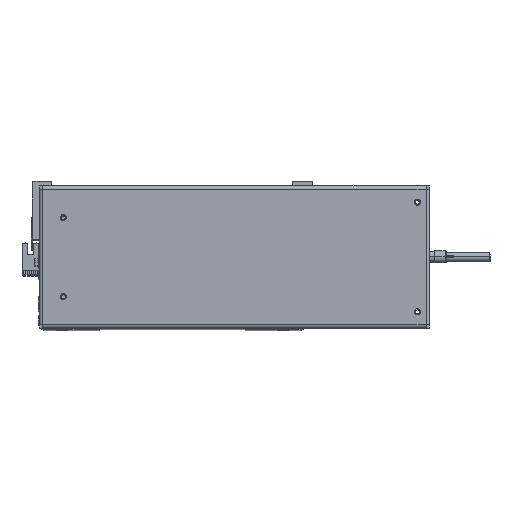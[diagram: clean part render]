
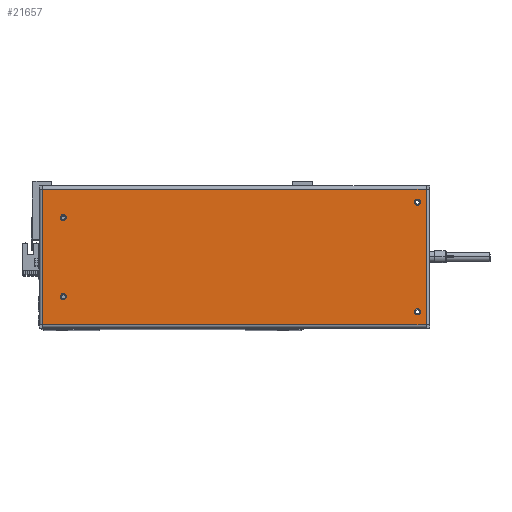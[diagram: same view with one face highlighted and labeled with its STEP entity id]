
A CAD part, top view. The second image highlights one B-rep face of the part: STEP entity #21657.
In plain terms, the highlighted planar face has unit normal (0, 0, 1).
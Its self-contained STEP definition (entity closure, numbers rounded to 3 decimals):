
#264 = LINE ( 'NONE', #8107, #10967 ) ;
#360 = DIRECTION ( 'NONE',  ( 1., 0., 0. ) ) ;
#774 = AXIS2_PLACEMENT_3D ( 'NONE', #36128, #15264, #360 ) ;
#854 = CIRCLE ( 'NONE', #12189, 2.5 ) ;
#1230 = DIRECTION ( 'NONE',  ( 1., 0., 0. ) ) ;
#2243 = CARTESIAN_POINT ( 'NONE',  ( 150.5, -45., 0. ) ) ;
#2262 = DIRECTION ( 'NONE',  ( 0., 1., 0. ) ) ;
#2602 = CARTESIAN_POINT ( 'NONE',  ( 153., -45., 0. ) ) ;
#4114 = DIRECTION ( 'NONE',  ( 1., 0., 0. ) ) ;
#4232 = CARTESIAN_POINT ( 'NONE',  ( -143., -32.5, 0. ) ) ;
#4441 = DIRECTION ( 'NONE',  ( 1., 0., 0. ) ) ;
#4993 = ORIENTED_EDGE ( 'NONE', *, *, #6854, .F. ) ;
#5530 = AXIS2_PLACEMENT_3D ( 'NONE', #18907, #7134, #4114 ) ;
#5735 = CIRCLE ( 'NONE', #38578, 2.5 ) ;
#5981 = VECTOR ( 'NONE', #10078, 1000. ) ;
#6465 = VERTEX_POINT ( 'NONE', #24953 ) ;
#6541 = ORIENTED_EDGE ( 'NONE', *, *, #24317, .F. ) ;
#6602 = CIRCLE ( 'NONE', #15587, 2.5 ) ;
#6828 = LINE ( 'NONE', #21601, #26959 ) ;
#6854 = EDGE_CURVE ( 'NONE', #22156, #10560, #13270, .T. ) ;
#6978 = EDGE_LOOP ( 'NONE', ( #18517, #12910 ) ) ;
#7134 = DIRECTION ( 'NONE',  ( 0., 0., 1. ) ) ;
#7180 = CARTESIAN_POINT ( 'NONE',  ( 157.6, 55.6, 0. ) ) ;
#7259 = LINE ( 'NONE', #31196, #31089 ) ;
#7505 = VERTEX_POINT ( 'NONE', #17971 ) ;
#8107 = CARTESIAN_POINT ( 'NONE',  ( 157.6, -55.6, 0. ) ) ;
#8706 = CARTESIAN_POINT ( 'NONE',  ( -143., 32.5, 0. ) ) ;
#9086 = FACE_BOUND ( 'NONE', #6978, .T. ) ;
#9932 = DIRECTION ( 'NONE',  ( 0., 0., 1. ) ) ;
#10021 = CIRCLE ( 'NONE', #27822, 2.5 ) ;
#10078 = DIRECTION ( 'NONE',  ( 0., -1., 0. ) ) ;
#10191 = CARTESIAN_POINT ( 'NONE',  ( 150.5, 45., 0. ) ) ;
#10560 = VERTEX_POINT ( 'NONE', #8706 ) ;
#10875 = VERTEX_POINT ( 'NONE', #2602 ) ;
#10967 = VECTOR ( 'NONE', #2262, 1000. ) ;
#11103 = ORIENTED_EDGE ( 'NONE', *, *, #21812, .T. ) ;
#11589 = EDGE_LOOP ( 'NONE', ( #4993, #24830 ) ) ;
#12189 = AXIS2_PLACEMENT_3D ( 'NONE', #34892, #16750, #37766 ) ;
#12353 = ORIENTED_EDGE ( 'NONE', *, *, #35823, .F. ) ;
#12910 = ORIENTED_EDGE ( 'NONE', *, *, #23603, .F. ) ;
#13270 = CIRCLE ( 'NONE', #774, 2.5 ) ;
#13385 = DIRECTION ( 'NONE',  ( 0., 0., 1. ) ) ;
#13558 = AXIS2_PLACEMENT_3D ( 'NONE', #26603, #23965, #27136 ) ;
#13847 = FACE_OUTER_BOUND ( 'NONE', #17105, .T. ) ;
#14212 = VERTEX_POINT ( 'NONE', #24643 ) ;
#14667 = DIRECTION ( 'NONE',  ( 1., 0., 0. ) ) ;
#14830 = DIRECTION ( 'NONE',  ( -1., 0., 0. ) ) ;
#14959 = DIRECTION ( 'NONE',  ( 0., 0., -1. ) ) ;
#15258 = EDGE_CURVE ( 'NONE', #7505, #29270, #17727, .T. ) ;
#15264 = DIRECTION ( 'NONE',  ( 0., 0., 1. ) ) ;
#15339 = PLANE ( 'NONE',  #37755 ) ;
#15587 = AXIS2_PLACEMENT_3D ( 'NONE', #10191, #9932, #4441 ) ;
#15917 = CARTESIAN_POINT ( 'NONE',  ( -157.6, 55.6, 0. ) ) ;
#16750 = DIRECTION ( 'NONE',  ( 0., 0., 1. ) ) ;
#17105 = EDGE_LOOP ( 'NONE', ( #25359, #20435, #18363, #11103 ) ) ;
#17461 = EDGE_CURVE ( 'NONE', #21807, #29310, #264, .T. ) ;
#17727 = LINE ( 'NONE', #15917, #5981 ) ;
#17769 = DIRECTION ( 'NONE',  ( 0., 0., 1. ) ) ;
#17971 = CARTESIAN_POINT ( 'NONE',  ( -157.6, 55.6, 0. ) ) ;
#18363 = ORIENTED_EDGE ( 'NONE', *, *, #17461, .T. ) ;
#18517 = ORIENTED_EDGE ( 'NONE', *, *, #33450, .F. ) ;
#18907 = CARTESIAN_POINT ( 'NONE',  ( -140.5, 32.5, 0. ) ) ;
#19724 = EDGE_CURVE ( 'NONE', #24824, #6465, #854, .T. ) ;
#19991 = DIRECTION ( 'NONE',  ( 0., 0., 1. ) ) ;
#20117 = CARTESIAN_POINT ( 'NONE',  ( 153., 45., 0. ) ) ;
#20435 = ORIENTED_EDGE ( 'NONE', *, *, #32233, .T. ) ;
#20743 = CARTESIAN_POINT ( 'NONE',  ( 150.5, -45., 0. ) ) ;
#21549 = ORIENTED_EDGE ( 'NONE', *, *, #23539, .F. ) ;
#21601 = CARTESIAN_POINT ( 'NONE',  ( -157.7, -55.6, 0. ) ) ;
#21657 = ADVANCED_FACE ( 'NONE', ( #24043, #23634, #9086, #32059, #13847 ), #15339, .F. ) ;
#21720 = CARTESIAN_POINT ( 'NONE',  ( -157.6, -55.6, 0. ) ) ;
#21807 = VERTEX_POINT ( 'NONE', #25042 ) ;
#21812 = EDGE_CURVE ( 'NONE', #29310, #7505, #7259, .T. ) ;
#22156 = VERTEX_POINT ( 'NONE', #30280 ) ;
#22377 = CARTESIAN_POINT ( 'NONE',  ( 150.5, 45., 0. ) ) ;
#23539 = EDGE_CURVE ( 'NONE', #23616, #14212, #5735, .T. ) ;
#23603 = EDGE_CURVE ( 'NONE', #36390, #10875, #29595, .T. ) ;
#23616 = VERTEX_POINT ( 'NONE', #20117 ) ;
#23634 = FACE_BOUND ( 'NONE', #11589, .T. ) ;
#23965 = DIRECTION ( 'NONE',  ( 0., 0., 1. ) ) ;
#24043 = FACE_BOUND ( 'NONE', #28719, .T. ) ;
#24317 = EDGE_CURVE ( 'NONE', #6465, #24824, #36996, .T. ) ;
#24643 = CARTESIAN_POINT ( 'NONE',  ( 148., 45., 0. ) ) ;
#24824 = VERTEX_POINT ( 'NONE', #4232 ) ;
#24830 = ORIENTED_EDGE ( 'NONE', *, *, #33716, .F. ) ;
#24953 = CARTESIAN_POINT ( 'NONE',  ( -138., -32.5, 0. ) ) ;
#25042 = CARTESIAN_POINT ( 'NONE',  ( 157.6, -55.6, 0. ) ) ;
#25359 = ORIENTED_EDGE ( 'NONE', *, *, #15258, .T. ) ;
#25553 = DIRECTION ( 'NONE',  ( -1., 0., 0. ) ) ;
#25582 = DIRECTION ( 'NONE',  ( 1., 0., 0. ) ) ;
#26603 = CARTESIAN_POINT ( 'NONE',  ( -140.5, -32.5, 0. ) ) ;
#26959 = VECTOR ( 'NONE', #1230, 1000. ) ;
#27136 = DIRECTION ( 'NONE',  ( 1., 0., 0. ) ) ;
#27822 = AXIS2_PLACEMENT_3D ( 'NONE', #20743, #17769, #14667 ) ;
#28539 = DIRECTION ( 'NONE',  ( 1., 0., 0. ) ) ;
#28719 = EDGE_LOOP ( 'NONE', ( #6541, #36527 ) ) ;
#29236 = EDGE_LOOP ( 'NONE', ( #21549, #12353 ) ) ;
#29270 = VERTEX_POINT ( 'NONE', #21720 ) ;
#29310 = VERTEX_POINT ( 'NONE', #7180 ) ;
#29595 = CIRCLE ( 'NONE', #38052, 2.5 ) ;
#30280 = CARTESIAN_POINT ( 'NONE',  ( -138., 32.5, 0. ) ) ;
#31069 = CARTESIAN_POINT ( 'NONE',  ( 148., -45., 0. ) ) ;
#31089 = VECTOR ( 'NONE', #25553, 1000. ) ;
#31196 = CARTESIAN_POINT ( 'NONE',  ( 157.7, 55.6, 0. ) ) ;
#32059 = FACE_BOUND ( 'NONE', #29236, .T. ) ;
#32085 = CIRCLE ( 'NONE', #5530, 2.5 ) ;
#32233 = EDGE_CURVE ( 'NONE', #29270, #21807, #6828, .T. ) ;
#32933 = CARTESIAN_POINT ( 'NONE',  ( 157.7, 58.5, 0. ) ) ;
#33450 = EDGE_CURVE ( 'NONE', #10875, #36390, #10021, .T. ) ;
#33716 = EDGE_CURVE ( 'NONE', #10560, #22156, #32085, .T. ) ;
#34892 = CARTESIAN_POINT ( 'NONE',  ( -140.5, -32.5, 0. ) ) ;
#35823 = EDGE_CURVE ( 'NONE', #14212, #23616, #6602, .T. ) ;
#36128 = CARTESIAN_POINT ( 'NONE',  ( -140.5, 32.5, 0. ) ) ;
#36390 = VERTEX_POINT ( 'NONE', #31069 ) ;
#36527 = ORIENTED_EDGE ( 'NONE', *, *, #19724, .F. ) ;
#36996 = CIRCLE ( 'NONE', #13558, 2.5 ) ;
#37755 = AXIS2_PLACEMENT_3D ( 'NONE', #32933, #14959, #14830 ) ;
#37766 = DIRECTION ( 'NONE',  ( 1., 0., 0. ) ) ;
#38052 = AXIS2_PLACEMENT_3D ( 'NONE', #2243, #19991, #25582 ) ;
#38578 = AXIS2_PLACEMENT_3D ( 'NONE', #22377, #13385, #28539 ) ;
